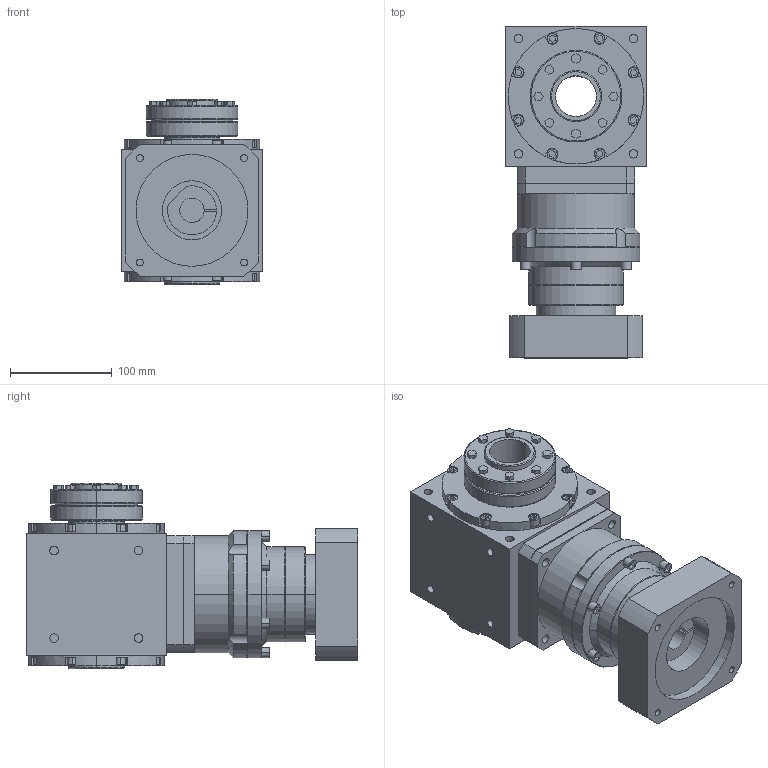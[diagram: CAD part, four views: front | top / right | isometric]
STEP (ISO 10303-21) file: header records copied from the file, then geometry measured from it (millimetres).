
FILE_DESCRIPTION (( 'STEP AP203' ), '1' );
FILE_NAME ('AAW135AS-L2-RFHP 24-110-145-M8.STEP', '2024-12-14T08:19:39', ( '' ), ( '' ), 'SwSTEP 2.0', 'SolidWorks 2021', '' );
FILE_SCHEMA (( 'CONFIG_CONTROL_DESIGN' ));
Length unit declared in the file: millimetre
Products named in the file (3): AAW135AS-L2-RFHP 24-110-145-M8; VRB-115-L2-S2-P1 24-110-145-M8; AAW135AS-RFHP
Assembly tree (2 placements, depth 2):
  AAW135AS-L2-RFHP 24-110-145-M8
    AAW135AS-RFHP
    VRB-115-L2-S2-P1 24-110-145-M8
Bounding box: 138 x 326 x 182 mm (x, y, z)
Volume: 4646319.6 mm3; surface area: 325401.5 mm2
Topology: 2 solids, 2 shells, 610 faces, 1473 edges, 956 vertices
Faces by surface type: plane 368, cylinder 192, cone 28, bspline 22
Entity records: 19175 total; most frequent: CARTESIAN_POINT 4319, DIRECTION 3098, ORIENTED_EDGE 2942, EDGE_CURVE 1471, AXIS2_PLACEMENT_3D 1081, VERTEX_POINT 956, VECTOR 936, LINE 936
